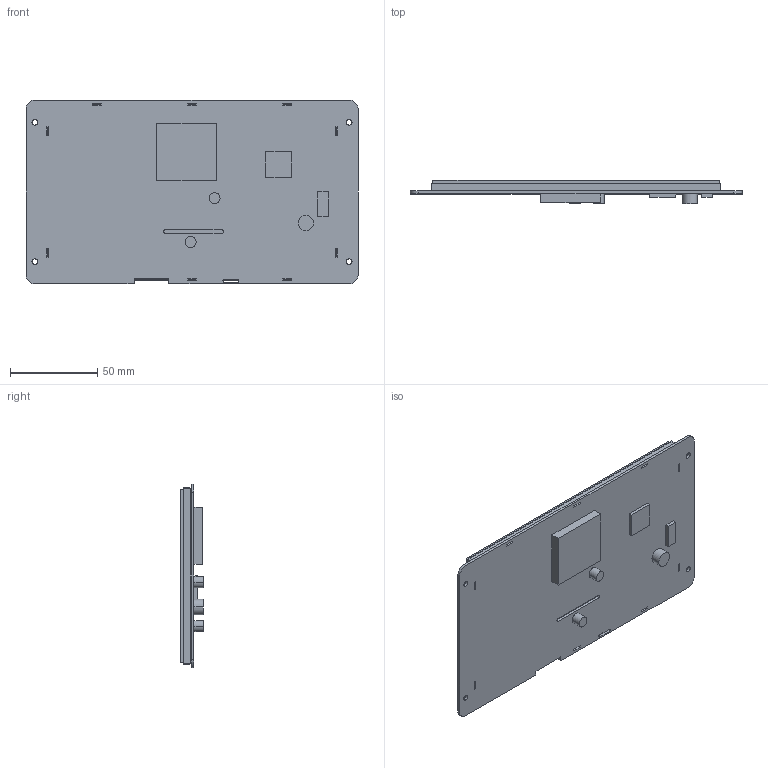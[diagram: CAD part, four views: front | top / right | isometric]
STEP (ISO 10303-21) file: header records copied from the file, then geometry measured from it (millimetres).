
FILE_DESCRIPTION((''),'2;1');
FILE_NAME('DMG10600C070-03WTC_ASM','2022-02-10T',('Administrator'),(''),'PRO/ENGINEER BY PARAMETRIC TECHNOLOGY CORPORATION, 2014320','PRO/ENGINEER BY PARAMETRIC TECHNOLOGY CORPORATION, 2014320','');
FILE_SCHEMA(('CONFIG_CONTROL_DESIGN','SHAPE_APPEARANCE_LAYERS_GROUPS'));
Length unit declared in the file: millimetre
Products named in the file (5): TK070011; COMWIN070HI213550408B; PCB; 5914-7; DMG10600C070-03WTC_ASM
Assembly tree (4 placements, depth 2):
  DMG10600C070-03WTC_ASM
    TK070011
    COMWIN070HI213550408B
    PCB
    5914-7
Bounding box: 190.5 x 13.57 x 105.41 mm (x, y, z)
Volume: 124946.7 mm3; surface area: 121675.1 mm2
Topology: 4 solids, 4 shells, 260 faces, 696 edges, 464 vertices
Faces by surface type: plane 238, cylinder 22
Entity records: 8376 total; most frequent: CARTESIAN_POINT 1429, ORIENTED_EDGE 1392, DIRECTION 1278, EDGE_CURVE 696, VECTOR 652, LINE 652, VERTEX_POINT 464, AXIS2_PLACEMENT_3D 313
